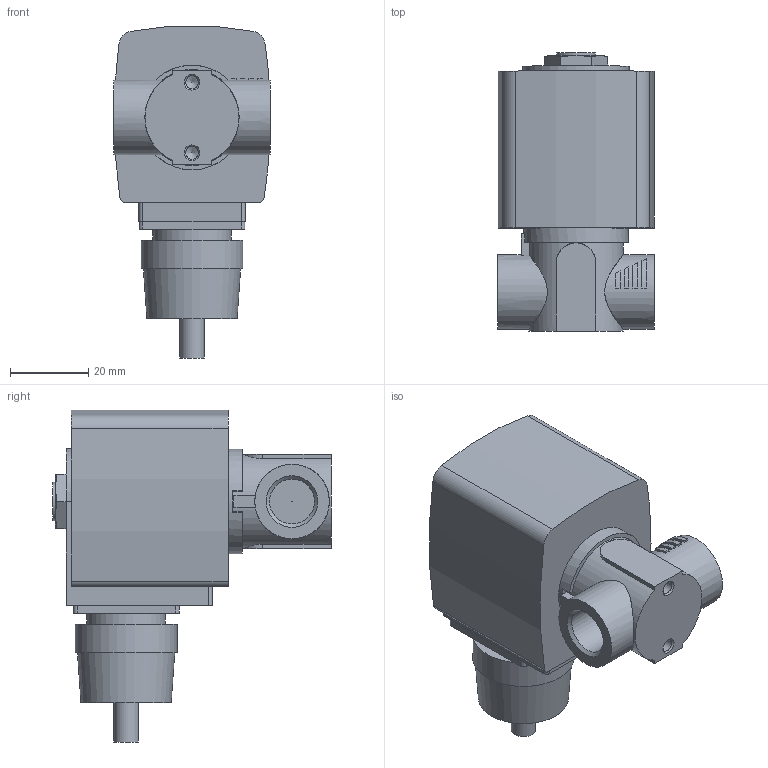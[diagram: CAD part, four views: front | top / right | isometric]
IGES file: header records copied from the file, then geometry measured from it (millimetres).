
Start section: Data from Parasolid IGES Translator 26.0.171, Copyright(c) 2006 Siemens PLM Software. All Rights Reserved.
Global section: file name: 6240-368640-2_2-way_solenoid_valve__pilot-controlled.igs; native system: By Siemens PLM Incorporated; preprocessor: XPlus GENERIC/IGES 26.0.171; author: Noname; organization: Noname; date: 20240508.065341; units: millimetre
Bounding box: 40 x 71 x 84.63 mm (x, y, z)
Surface area: 19021.3 mm2 (no closed solid volume)
Topology: 0 solids, 0 shells, 115 faces, 560 edges, 544 vertices
Faces by surface type: extrusion 64, revolution 51
